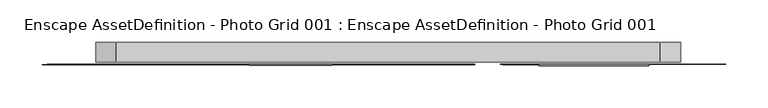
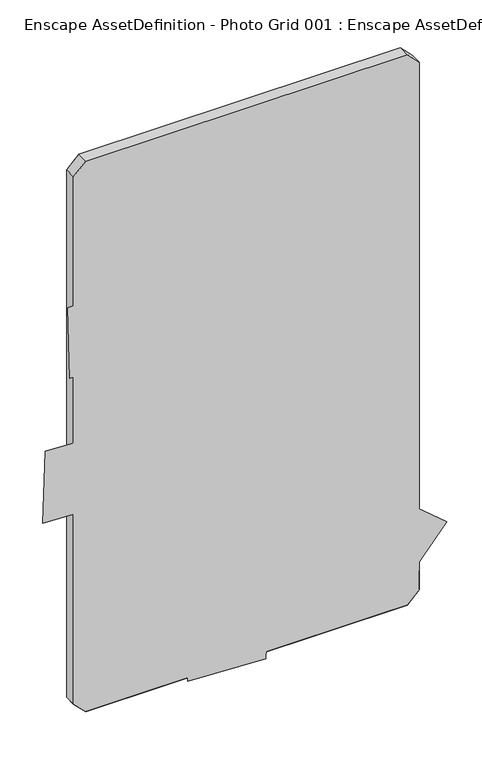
"""IFC4 building model written with IfcOpenShell, lengths in millimetres: geographic element geometry, Enscape AssetDefinition - Photo Grid 001 : Enscape AssetDefinition - Photo Grid 001."""

from ifc_helpers import new_model, si_unit, origin, place, context, project, spatial, triangles, source, transform, mapped, element, save


def enscape_assetdefinition_photo_grid_001_enscape_8e951b4d(model_context):
    return source(origin(), model_context, "Body", "Tessellation", [
        triangles([(404.9110042, -26.0299995, -432.4089987), (188.1319941, -26.7649997, -445.8980009), (293.8450001, -26.0299995, 438.1239841), (139.686005, -26.7649997, 285.1209868), (-63.8140009, -26.0299995, 143.4810041), (-161.4219965, -27.3580003, -128.7849988), (313.2740104, -27.8670013, -231.1399976), (183.4580061, -26.0299995, 144.7820057), (106.4169964, -26.0299995, 287.7579988), (-55.5489985, -26.7649997, 143.043994), (-116.8219936, -26.0299995, 435.4330147), (-275.965005, -26.7649997, 287.6209977), (-199.5519911, -26.0299995, 292.0550112), (-352.9610138, -26.7649997, 138.3009969), (-245.0360062, -26.0299995, -6.841), (-407.7079991, -26.7649997, -150.7609921), (48.085001, -26.0299995, -446.2609875), (-115.7740016, -26.7640004, -588.827031), (105.4460074, -26.0299995, -148.8829999), (-50.7129974, -26.7640004, -299.8459964), (-138.574999, -26.0299995, -297.5330017), (-301.247001, -26.7640004, -441.4539771), (-295.3810073, -26.0299995, -291.4040154), (-144.4409927, -26.7640004, -447.5829998), (106.2109952, -26.7640004, -299.0460089), (-51.4779988, -26.0299995, -149.6829965), (40.9760009, -26.7640004, -596.2569554), (-108.6639977, -26.0299995, -438.8309904), (-250.9019999, -26.7649997, -156.8910049), (-401.8420054, -26.0299995, -0.711), (-196.0780025, -26.7649997, 141.9309988), (-356.4350023, -26.0299995, 288.4250002), (-119.0569952, -26.7649997, 285.2850029), (-273.7300033, -26.0299995, 437.7680102), (101.2850059, -26.7649997, 137.6810038), (-50.4169989, -26.0299995, 293.1199898), (182.7690039, -27.8670013, -230.7939976), (313.9629945, -26.0299995, 144.4360057), (-162.2470007, -26.0299995, 142.7209941), (-62.9889968, -27.3580003, -128.024998), (296.5849854, -26.7649997, 287.9850017), (136.9449931, -26.0299995, 435.2599874), (285.0129992, -26.0299995, -331.1660142), (308.0299991, -26.7640004, -547.1410217), (-344.1420027, -23.9339997, 562.1799657), (-344.1420027, 0.085, 562.1690289), (-319.6960021, -23.9339997, 586.62702), (-319.6960021, 0.085, 586.6159741), (326.8359733, 0.085, 586.6159741), (351.2830276, 0.085, 562.1690289), (326.8359733, -23.9339997, 586.62702), (351.2830276, -23.9339997, -559.3350085), (351.2830276, -23.9339997, 562.1799657), (351.2830276, 0.085, -559.346018), (-344.1420027, 0.085, -559.346018), (-319.6960021, 0.085, -583.7919823), (-319.6960021, -23.9339997, -583.7810091), (326.8359733, -23.9339997, -583.7810091), (-344.1420027, -23.9339997, -559.3350085), (326.8359733, 0.085, -583.7919823)], [[58, 56, 60], [58, 57, 56], [59, 57, 58], [58, 52, 59], [58, 60, 54], [58, 54, 52], [57, 59, 55], [60, 56, 55], [57, 55, 56], [54, 60, 55], [59, 46, 55], [52, 54, 50], [50, 54, 55], [55, 46, 50], [52, 53, 59], [52, 50, 53], [53, 50, 49], [53, 49, 51], [53, 51, 47], [51, 49, 48], [48, 49, 50], [46, 48, 50], [51, 48, 47], [59, 45, 46], [48, 46, 45], [47, 45, 53], [48, 45, 47], [45, 59, 53], [44, 1, 43], [44, 43, 2], [41, 3, 42], [41, 42, 4], [40, 5, 39], [40, 39, 6], [37, 7, 38], [37, 38, 8], [35, 9, 36], [35, 36, 10], [33, 11, 34], [33, 34, 12], [31, 13, 32], [31, 32, 14], [29, 15, 30], [29, 30, 16], [27, 17, 28], [27, 28, 18], [25, 19, 26], [25, 26, 20], [24, 21, 23], [24, 23, 22]], closed=False),
    ])


if __name__ == "__main__":
    model = new_model("IFC4")
    model_context = context("Model", 3, world=origin())
    ifc_project = project(units=[si_unit("LENGTHUNIT", "METRE", prefix="MILLI")], contexts=[model_context])
    site = spatial("IfcSite", under=ifc_project)
    building = spatial("IfcBuilding", under=site)
    placement = place(None, origin())
    enscape_assetdefinition_photo_grid_001_enscape_shape = enscape_assetdefinition_photo_grid_001_enscape_8e951b4d(model_context)
    element("IfcGeographicElement", 1, ObjectType="Enscape AssetDefinition - Photo Grid 001 : Enscape AssetDefinition - Photo Grid 001", at=placement, inside=building, context=model_context, shape_type="MappedRepresentation", body=[
        mapped(enscape_assetdefinition_photo_grid_001_enscape_shape, transform((0.0, 0.0, 0.0), x_axis=(1.0, 0.0, 0.0), y_axis=(0.0, 1.0, 0.0), z_axis=(0.0, 0.0, 1.0))),
    ])
    save(model, "model.ifc")
